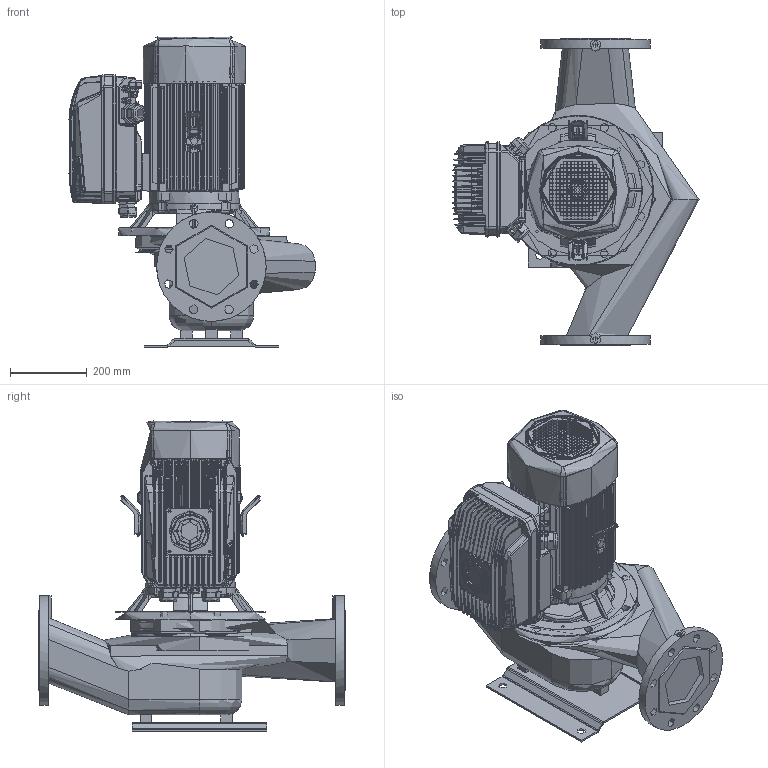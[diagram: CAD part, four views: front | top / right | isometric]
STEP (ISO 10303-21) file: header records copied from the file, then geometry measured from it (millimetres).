
FILE_DESCRIPTION(('STEP AP214'),'1');
FILE_NAME('export.stp','2022-09-07T07:22:42',(' '),(' '),'Spatial InterOp 3D',' ',' ');
FILE_SCHEMA(('AUTOMOTIVE_DESIGN { 1 0 10303 214 1 1 1 1 }'));
Length unit declared in the file: millimetre
Products named in the file (19): P100496; P100495; P100342; W_AL11544MDKP134; V_MKP134-H2_F31; G35929; G23890; G35875; 24111; G24110_b; G43699; R200882; R200929; DIN_EN_24017-M10x20; R201240; Mida_414-418; V_PPAL1154; V_TL110611291154
Assembly tree (20 placements, depth 4):
  W_AL11544MDKP134
    P100496
      P100495  x2
      P100342
    V_MKP134-H2_F31
      G35929
      G23890
      G35875
        24111
        G24110_b
      G43699
      R200882
      R200929
      R200929
      DIN_EN_24017-M10x20  x2
      R201240
    Mida_414-418
    V_PPAL1154
    V_TL110611291154
Bounding box: 640.94 x 800 x 808.88 mm (x, y, z)
Topology: 64 solids, 68 shells, 9022 faces, 23723 edges, 14738 vertices
Faces by surface type: plane 3262, cylinder 3084, bspline 1595, cone 593, torus 428, sphere 60
Entity records: 661174 total; most frequent: CARTESIAN_POINT 378894, ORIENTED_EDGE 46766, DIRECTION 37610, EDGE_CURVE 23383, VERTEX_POINT 14711, AXIS2_PLACEMENT_3D 13397, LINE 10816, VECTOR 10816
